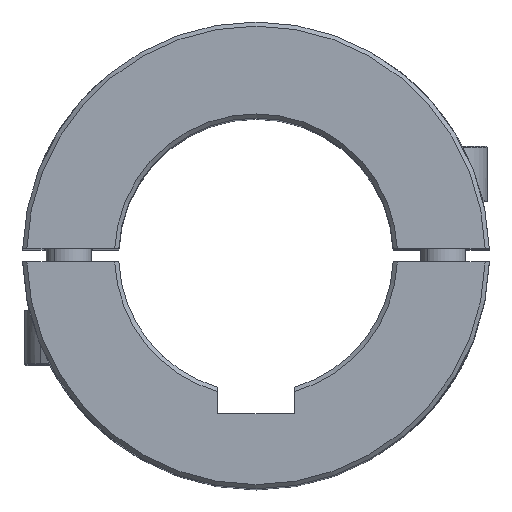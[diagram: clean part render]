
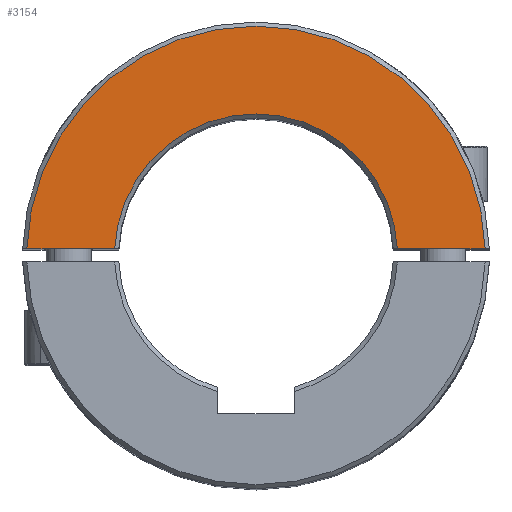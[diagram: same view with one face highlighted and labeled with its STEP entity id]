
A CAD part, top view. The second image highlights one B-rep face of the part: STEP entity #3154.
In plain terms, the highlighted planar face has unit normal (0, 0, 1).
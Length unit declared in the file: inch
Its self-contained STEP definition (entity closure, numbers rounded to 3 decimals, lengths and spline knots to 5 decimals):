
#923=DIRECTION('',(-1.,0.,0.));
#924=VECTOR('',#923,0.62939);
#925=CARTESIAN_POINT('',(1.64256,0.04688,2.44094));
#926=LINE('',#925,#924);
#980=CARTESIAN_POINT('',(0.,0.,2.44094));
#981=DIRECTION('',(0.,0.,-1.));
#982=DIRECTION('',(-0.999,0.046,0.));
#983=AXIS2_PLACEMENT_3D('',#980,#981,#982);
#1013=CARTESIAN_POINT('',(-1.64256,0.04688,2.44094));
#1021=DIRECTION('',(-1.,0.,0.));
#1022=VECTOR('',#1021,0.62939);
#1023=CARTESIAN_POINT('',(-1.01317,0.04688,2.44094));
#1024=LINE('',#1023,#1022);
#1108=CARTESIAN_POINT('',(0.,0.,2.44094));
#1109=DIRECTION('',(0.,0.,1.));
#1110=DIRECTION('',(1.,0.029,0.));
#1111=AXIS2_PLACEMENT_3D('',#1108,#1109,#1110);
#2343=VERTEX_POINT('',#1013);
#2344=CARTESIAN_POINT('',(-1.01317,0.04688,2.44094));
#2345=VERTEX_POINT('',#2344);
#2362=CARTESIAN_POINT('',(1.64256,0.04688,2.44094));
#2363=CARTESIAN_POINT('',(1.01317,0.04688,2.44094));
#2364=VERTEX_POINT('',#2362);
#2365=VERTEX_POINT('',#2363);
#3143=CARTESIAN_POINT('',(0.,0.,2.44094));
#3144=DIRECTION('',(0.,0.,1.));
#3145=DIRECTION('',(1.,0.,0.));
#3146=AXIS2_PLACEMENT_3D('',#3143,#3144,#3145);
#3147=PLANE('',#3146);
#3148=ORIENTED_EDGE('',*,*,#3041,.F.);
#3149=ORIENTED_EDGE('',*,*,#3061,.T.);
#3150=ORIENTED_EDGE('',*,*,#3137,.F.);
#3151=ORIENTED_EDGE('',*,*,#3013,.T.);
#3152=EDGE_LOOP('',(#3148,#3149,#3150,#3151));
#3153=FACE_OUTER_BOUND('',#3152,.F.);
#984=CIRCLE('',#983,1.01425);
#1112=CIRCLE('',#1111,1.64323);
#3013=EDGE_CURVE('',#2364,#2365,#926,.T.);
#3041=EDGE_CURVE('',#2345,#2365,#984,.T.);
#3061=EDGE_CURVE('',#2345,#2343,#1024,.T.);
#3137=EDGE_CURVE('',#2364,#2343,#1112,.T.);
#3154=ADVANCED_FACE('',(#3153),#3147,.T.);
